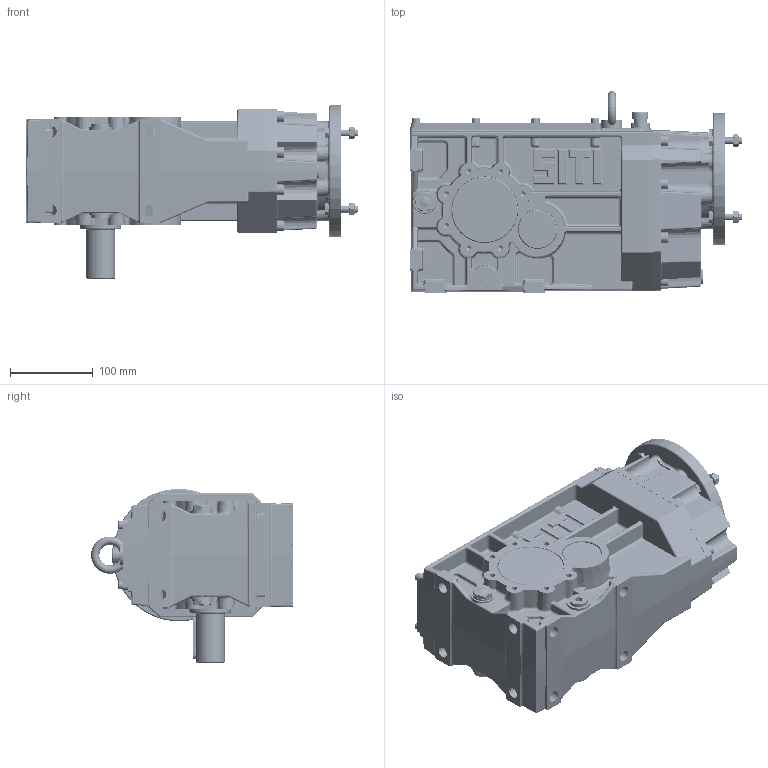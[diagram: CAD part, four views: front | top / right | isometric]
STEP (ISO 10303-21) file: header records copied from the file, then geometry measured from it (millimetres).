
FILE_DESCRIPTION((''),'2;1');
FILE_NAME('O:\Figurini\Figurini BH\3D\MBH 63 MS-A PAM 71 B5.stp','2013-04-22T10:09:28',('d.iannaccio'),(''),'Autodesk Inventor 2012','Autodesk Inventor 2012','');
FILE_SCHEMA(('AUTOMOTIVE_DESIGN { 1 0 10303 214 1 1 1 1 }'));
Length unit declared in the file: millimetre
Products named in the file (1): MBH_63 MS-A PAM 71 B5
Bounding box: 400.5 x 243.47 x 209.7 mm (x, y, z)
Volume: 3294044 mm3; surface area: 775345.5 mm2
Topology: 2 solids, 64 shells, 3807 faces, 9085 edges, 5471 vertices
Faces by surface type: plane 1160, cylinder 1076, bspline 716, cone 373, torus 359, sphere 123
Full cylindrical faces by diameter (mm): 4.917 x8, 6 x16, 6.5 x1, 6.647 x30, 7 x8, 8 x39, 8.376 x1, 8.4 x1, 8.5 x2, 9 x20, 10 x16, 10.39 x1, 11 x1, 11.445 x1, 11.63 x4, 13 x16, 13.8 x1, 14 x16, 14.95 x5, 16 x1, 18 x1, 19.5 x1, 20 x2, 25 x1, 28 x6, 33 x1, 34.589 x1, 34.989 x3, 35 x1, 43.875 x2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
Entity records: 129392 total; most frequent: CARTESIAN_POINT 44447, ORIENTED_EDGE 16582, DIRECTION 16378, EDGE_CURVE 8292, AXIS2_PLACEMENT_3D 6729, VERTEX_POINT 5255, EDGE_LOOP 4539, FACE_OUTER_BOUND 3807
